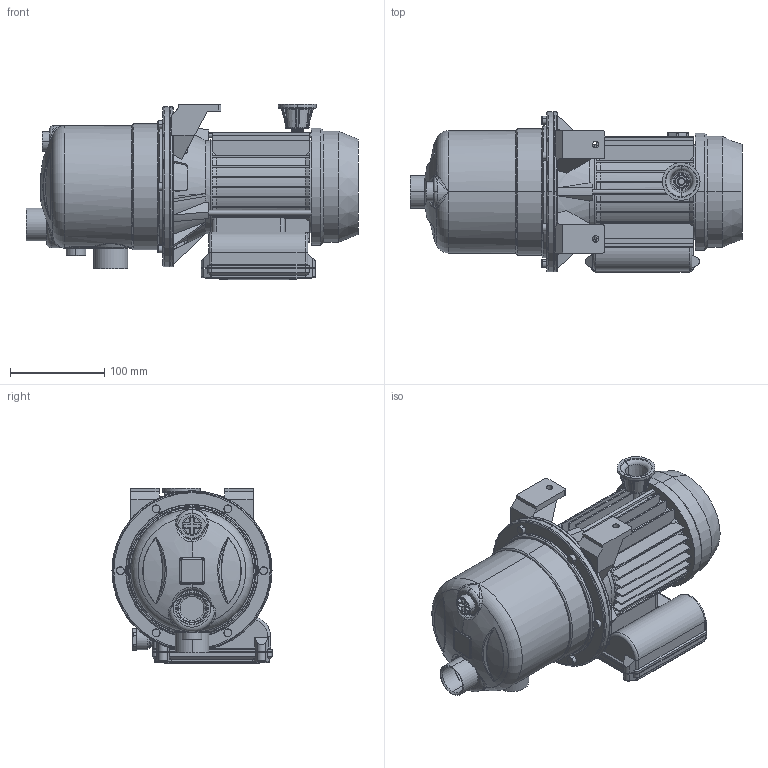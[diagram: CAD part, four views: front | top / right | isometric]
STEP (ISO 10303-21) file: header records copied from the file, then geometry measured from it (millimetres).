
FILE_DESCRIPTION((''),'2;1');
FILE_NAME('JESX_M5_ASM','2017-01-31T',('rosa'),('"Ebara Pumps Europe +39.444.706811"'),'PRO/ENGINEER BY PARAMETRIC TECHNOLOGY CORPORATION, 2012130','PRO/ENGINEER BY PARAMETRIC TECHNOLOGY CORPORATION, 2012130','');
FILE_SCHEMA(('AUTOMOTIVE_DESIGN { 1 0 10303 214 1 1 1 1 }'));
Length unit declared in the file: millimetre
Products named in the file (8): JESX_80544; 02022; 40092; 02022_ASM; MEC_63_MONOFASE_3_TIRANTI; COPRIMORS_MEC63-71_MONOFASE_M4; 72011; JESX_M5_ASM
Assembly tree (8 placements, depth 3):
  JESX_M5_ASM
    JESX_80544
    02022_ASM
      02022
      40092  x2
    MEC_63_MONOFASE_3_TIRANTI
    COPRIMORS_MEC63-71_MONOFASE_M4
    72011
Bounding box: 352.5 x 170 x 186 mm (x, y, z)
Volume: 3612558.7 mm3; surface area: 427774.9 mm2
Topology: 7 solids, 7 shells, 1129 faces, 2695 edges, 1641 vertices
Faces by surface type: plane 443, cylinder 290, bspline 170, cone 147, torus 69, sphere 10
Entity records: 50299 total; most frequent: CARTESIAN_POINT 17171, ORIENTED_EDGE 5226, DIRECTION 4871, EDGE_CURVE 2613, PRESENTATION_STYLE_ASSIGNMENT 2536, STYLED_ITEM 2536, CURVE_STYLE 2531, AXIS2_PLACEMENT_3D 1894
